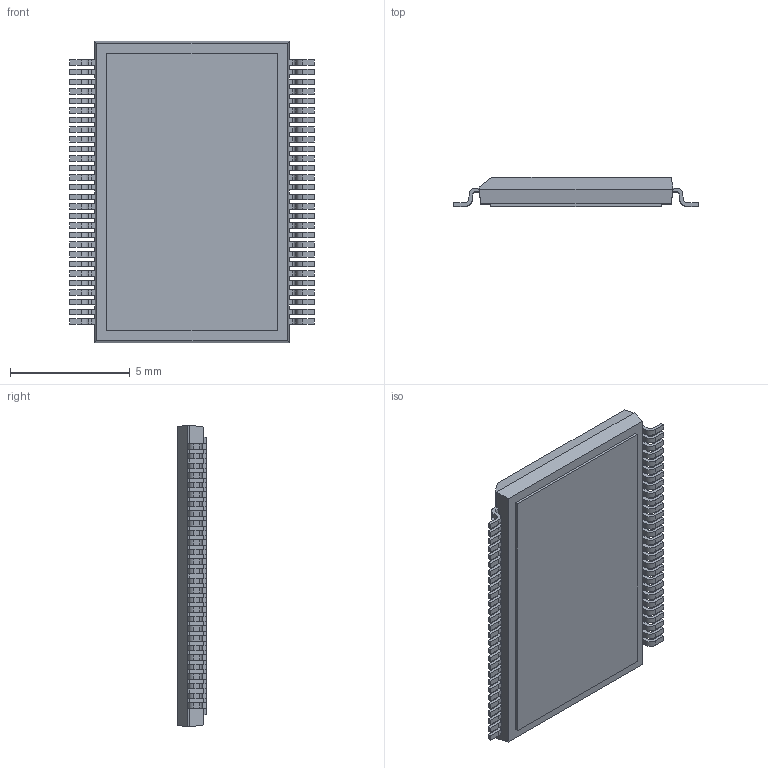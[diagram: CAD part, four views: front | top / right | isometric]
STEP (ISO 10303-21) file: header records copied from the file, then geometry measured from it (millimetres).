
FILE_DESCRIPTION (( 'STEP AP214' ), '1' );
FILE_NAME ('TSSOP40P1000X120-56TP_MO-153.JCT.STEP', '2014-10-29T08:21:59', ( 'Tester2' ), ( '' ), 'SwSTEP 2.0', 'SolidWorks 2012', '' );
FILE_SCHEMA (( 'AUTOMOTIVE_DESIGN' ));
Length unit declared in the file: millimetre
Products named in the file (1): TSSOP40P1000X120-56TP_MO-153.JCT
Bounding box: 10.2 x 1.2 x 12.6 mm (x, y, z)
Volume: 120.4 mm3; surface area: 306.9 mm2
Topology: 1 solids, 1 shells, 747 faces, 2225 edges, 1482 vertices
Faces by surface type: plane 521, cylinder 226
Entity records: 33109 total; most frequent: CARTESIAN_POINT 4455, ORIENTED_EDGE 4450, DIRECTION 4173, EDGE_CURVE 2225, VECTOR 1773, LINE 1773, VERTEX_POINT 1482, AXIS2_PLACEMENT_3D 1200
